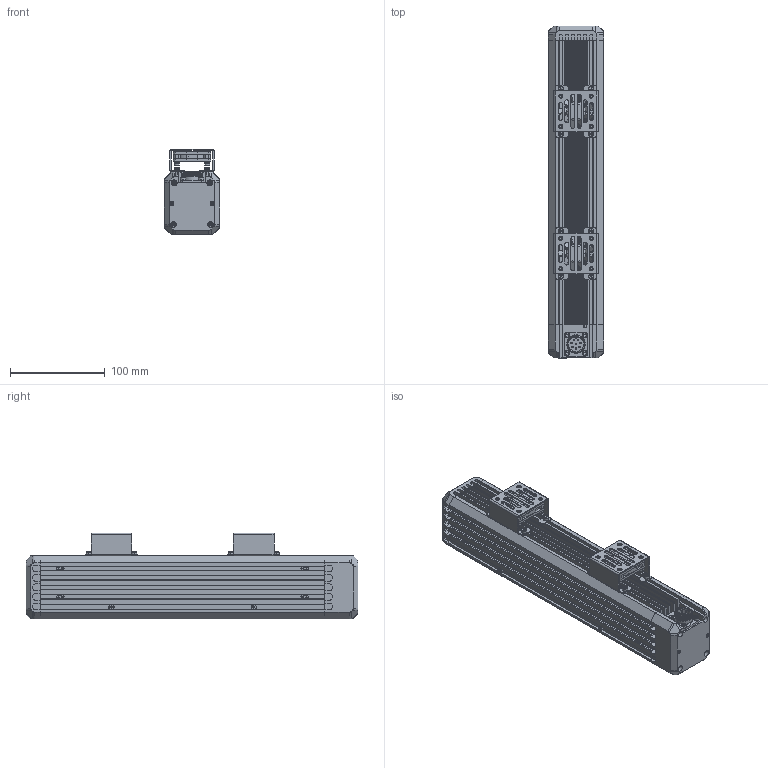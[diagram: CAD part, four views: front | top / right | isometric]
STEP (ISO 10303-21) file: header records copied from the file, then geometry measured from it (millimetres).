
FILE_DESCRIPTION((''),'2;1');
FILE_NAME('MV-LTDS-H-300-W_ASM_1_ASM','2025-06-03T15:05:01',('huguozhe'),(''),'CREO PARAMETRIC BY PTC INC, 2020044','CREO PARAMETRIC BY PTC INC, 2020044','');
FILE_SCHEMA(('AUTOMOTIVE_DESIGN { 1 0 10303 214 1 1 1 1 }'));
Products named in the file (27): DE-15-000618_1; DE-15-000617_ASM_1_ASM; DE-15-000620_1; DE-15-000619_ASM_1_ASM; SC-HSCM3X6B-GB70_1_1; DE-14-015561_1; DE-14-016112_ASM_1_ASM; DE-14-015560_1_1_1; DE-14-016113_ASM_1_1_ASM_1_ASM; DE-14-016113_ASM_ASM_1_ASM; 19M-H_2_1_1_1; 19M-8H-8P_1_1; 19M-8H_ASM_1_ASM_1_ASM; 19M-8H_ASM_ASM_1_ASM; DE-14-016113-19M-8H_ASM; DE-12-001654_1; SC-AM3X10NL-BNI-SCM435-GB70_1_1; SC-HSCM3X8-SUS316_1; DE-11-019911_1; 8002-CLS-M3-1_1; DE-11-019911_ASM_1_ASM; 101800527_01_1; 101800527_02_1; 101800527_MGA4012HB-O10_ASM_1_ASM; SC-ASFM3X14NL-BNI-SUS316L_1; NUT-M4-GB6170_1; MV-LTDS-H-300-W_ASM_1_ASM
Assembly tree (67 placements, depth 5):
  MV-LTDS-H-300-W_ASM_1_ASM
    DE-15-000617_ASM_1_ASM
      DE-15-000618_1
    DE-15-000619_ASM_1_ASM  x2
      DE-15-000620_1
    SC-HSCM3X6B-GB70_1_1  x4
    DE-14-016112_ASM_1_ASM
      DE-14-015561_1
    DE-14-016113-19M-8H_ASM
      DE-14-016113_ASM_ASM_1_ASM
        DE-14-016113_ASM_1_1_ASM_1_ASM
          DE-14-015560_1_1_1
      19M-8H_ASM_ASM_1_ASM
        19M-8H_ASM_1_ASM_1_ASM
          19M-H_2_1_1_1
          19M-8H-8P_1_1
    DE-12-001654_1
    SC-AM3X10NL-BNI-SCM435-GB70_1_1  x16
    SC-HSCM3X8-SUS316_1  x4
    DE-11-019911_ASM_1_ASM  x2
      DE-11-019911_1
      8002-CLS-M3-1_1
    101800527_MGA4012HB-O10_ASM_1_ASM  x2
      101800527_01_1
      101800527_02_1
    SC-ASFM3X14NL-BNI-SUS316L_1  x8
    NUT-M4-GB6170_1  x8
Bounding box: 58 x 350 x 90.6 mm (x, y, z)
Volume: 1065019.2 mm3; surface area: 315636.5 mm2
Topology: 62 solids, 158 shells, 3413 faces, 9174 edges, 5923 vertices
Faces by surface type: plane 1579, cylinder 1164, cone 472, torus 156, bspline 26, sphere 16
Entity records: 70851 total; most frequent: CARTESIAN_POINT 17688, DIRECTION 9681, ORIENTED_EDGE 8932, EDGE_CURVE 4552, AXIS2_PLACEMENT_3D 3634, VERTEX_POINT 3041, VECTOR 2413, LINE 2413
